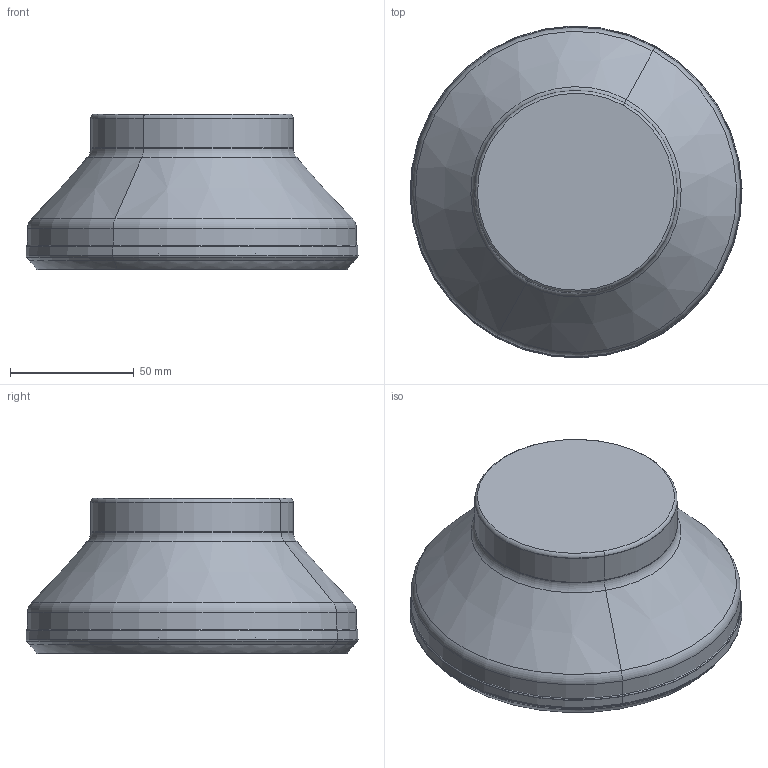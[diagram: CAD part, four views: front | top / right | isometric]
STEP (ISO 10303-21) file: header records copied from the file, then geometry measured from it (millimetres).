
FILE_DESCRIPTION(('CATIA V5 STEP Exchange'),'2;1');
FILE_NAME('I:\isr\design\admin8\users\hala_s\3106530 .stp','2012-11-01T09:42:55+00:00',('none'),('none'),'CATIA Version 5 Release 21 SP 3 (IN-10)','CATIA V5 STEP AP214','none');
FILE_SCHEMA(('AUTOMOTIVE_DESIGN { 1 0 10303 214 1 1 1 1 }'));
Length unit declared in the file: millimetre
Products named in the file (1): 61058148_0 Assembly IQ845 FSY D125-09-40-R07
Bounding box: 134.36 x 134.36 x 63 mm (x, y, z)
Volume: 496261 mm3; surface area: 62002.6 mm2
Topology: 2 solids, 2 shells, 161 faces, 320 edges, 162 vertices
Faces by surface type: cone 118, torus 34, cylinder 6, plane 3
Entity records: 3513 total; most frequent: ORIENTED_EDGE 640, CARTESIAN_POINT 568, DIRECTION 490, EDGE_CURVE 320, AXIS2_PLACEMENT_3D 282, CIRCLE 196, EDGE_LOOP 162, VERTEX_POINT 162
